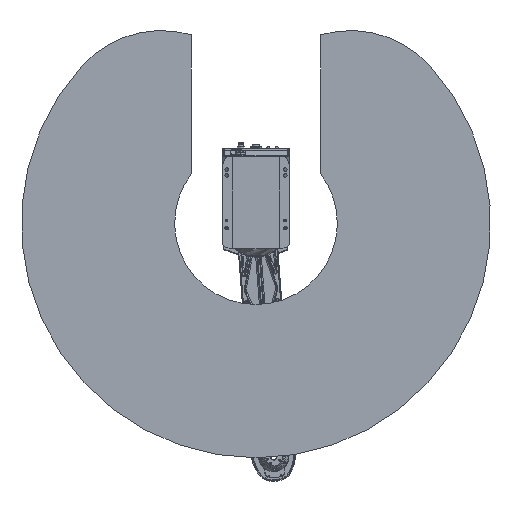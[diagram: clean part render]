
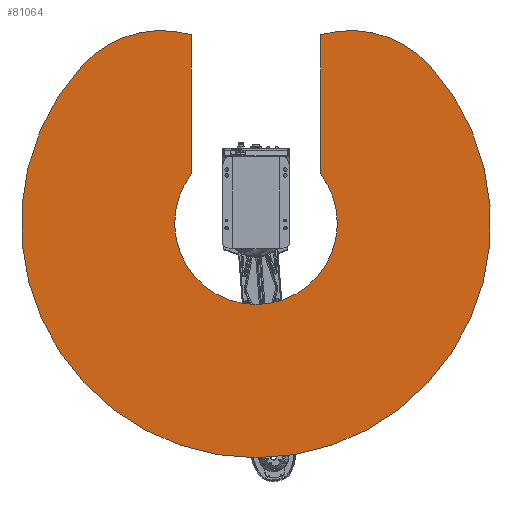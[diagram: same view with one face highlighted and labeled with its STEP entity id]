
A CAD part, front view. The second image highlights one B-rep face of the part: STEP entity #81064.
In plain terms, the highlighted planar face has unit normal (0, -1, 0).
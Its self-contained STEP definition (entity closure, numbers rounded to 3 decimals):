
#2747 = DIRECTION ( 'NONE',  ( 0., 0., -1. ) ) ;
#4393 = VERTEX_POINT ( 'NONE', #165132 ) ;
#9989 = ORIENTED_EDGE ( 'NONE', *, *, #120149, .F. ) ;
#12618 = CIRCLE ( 'NONE', #333390, 600. ) ;
#13391 = DIRECTION ( 'NONE',  ( 0., 0., -1. ) ) ;
#16345 = VERTEX_POINT ( 'NONE', #191407 ) ;
#18442 = CARTESIAN_POINT ( 'NONE',  ( -165., 0., 126.645 ) ) ;
#23619 = EDGE_CURVE ( 'NONE', #4393, #152826, #226561, .T. ) ;
#30586 = AXIS2_PLACEMENT_3D ( 'NONE', #143456, #346670, #172681 ) ;
#35847 = DIRECTION ( 'NONE',  ( 0., 1., 0. ) ) ;
#43668 = DIRECTION ( 'NONE',  ( 0., 0., 1. ) ) ;
#46127 = EDGE_CURVE ( 'NONE', #140333, #336031, #341494, .T. ) ;
#49464 = CIRCLE ( 'NONE', #327204, 275. ) ;
#62021 = AXIS2_PLACEMENT_3D ( 'NONE', #350613, #176620, #2747 ) ;
#73360 = CIRCLE ( 'NONE', #62021, 208. ) ;
#73653 = CIRCLE ( 'NONE', #325041, 208. ) ;
#79103 = CARTESIAN_POINT ( 'NONE',  ( 0., 0., 0. ) ) ;
#81064 = ADVANCED_FACE ( 'NONE', ( #164933 ), #274875, .F. ) ;
#84180 = VECTOR ( 'NONE', #185702, 1000. ) ;
#108369 = DIRECTION ( 'NONE',  ( 0., 0., -1. ) ) ;
#120149 = EDGE_CURVE ( 'NONE', #203296, #140333, #49464, .T. ) ;
#134414 = VECTOR ( 'NONE', #181798, 1000. ) ;
#140333 = VERTEX_POINT ( 'NONE', #238589 ) ;
#143456 = CARTESIAN_POINT ( 'NONE',  ( 0., 0., 0. ) ) ;
#150323 = VERTEX_POINT ( 'NONE', #18442 ) ;
#152151 = EDGE_CURVE ( 'NONE', #336031, #4393, #12618, .T. ) ;
#152826 = VERTEX_POINT ( 'NONE', #194237 ) ;
#159205 = CARTESIAN_POINT ( 'NONE',  ( 0., 0., 0. ) ) ;
#161415 = LINE ( 'NONE', #301272, #84180 ) ;
#164933 = FACE_OUTER_BOUND ( 'NONE', #249279, .T. ) ;
#165132 = CARTESIAN_POINT ( 'NONE',  ( -445.887, 0., 401.478 ) ) ;
#171926 = DIRECTION ( 'NONE',  ( 0., 1., 0. ) ) ;
#172681 = DIRECTION ( 'NONE',  ( 0., 0., -1. ) ) ;
#176620 = DIRECTION ( 'NONE',  ( 0., 1., 0. ) ) ;
#181798 = DIRECTION ( 'NONE',  ( 0., 0., -1. ) ) ;
#185702 = DIRECTION ( 'NONE',  ( 0., 0., -1. ) ) ;
#187382 = DIRECTION ( 'NONE',  ( 0., 1., 0. ) ) ;
#189778 = ORIENTED_EDGE ( 'NONE', *, *, #46127, .F. ) ;
#191407 = CARTESIAN_POINT ( 'NONE',  ( 0., 0., -208. ) ) ;
#194237 = CARTESIAN_POINT ( 'NONE',  ( -165., 0., 481.606 ) ) ;
#199955 = EDGE_CURVE ( 'NONE', #152826, #150323, #202545, .T. ) ;
#202545 = LINE ( 'NONE', #268274, #134414 ) ;
#203296 = VERTEX_POINT ( 'NONE', #312594 ) ;
#209844 = CARTESIAN_POINT ( 'NONE',  ( 241.522, 0., 217.467 ) ) ;
#215435 = AXIS2_PLACEMENT_3D ( 'NONE', #345934, #171926, #375114 ) ;
#217623 = DIRECTION ( 'NONE',  ( 0., 1., 0. ) ) ;
#223280 = CARTESIAN_POINT ( 'NONE',  ( 165., 0., 126.645 ) ) ;
#223743 = ORIENTED_EDGE ( 'NONE', *, *, #224901, .T. ) ;
#224901 = EDGE_CURVE ( 'NONE', #238048, #16345, #73360, .T. ) ;
#226561 = CIRCLE ( 'NONE', #215435, 275. ) ;
#229008 = CARTESIAN_POINT ( 'NONE',  ( 0., 0., -600. ) ) ;
#238048 = VERTEX_POINT ( 'NONE', #223280 ) ;
#238589 = CARTESIAN_POINT ( 'NONE',  ( 445.887, 0., 401.478 ) ) ;
#239068 = DIRECTION ( 'NONE',  ( 0., 0., -1. ) ) ;
#248390 = AXIS2_PLACEMENT_3D ( 'NONE', #159205, #217623, #43668 ) ;
#249279 = EDGE_LOOP ( 'NONE', ( #9989, #329361, #223743, #295526, #297720, #278835, #348845, #189778 ) ) ;
#268274 = CARTESIAN_POINT ( 'NONE',  ( -165., 0., 0. ) ) ;
#274875 = PLANE ( 'NONE',  #248390 ) ;
#278835 = ORIENTED_EDGE ( 'NONE', *, *, #23619, .F. ) ;
#282392 = DIRECTION ( 'NONE',  ( 0., 1., 0. ) ) ;
#295526 = ORIENTED_EDGE ( 'NONE', *, *, #349023, .T. ) ;
#297720 = ORIENTED_EDGE ( 'NONE', *, *, #199955, .F. ) ;
#301272 = CARTESIAN_POINT ( 'NONE',  ( 165., 0., 0. ) ) ;
#312594 = CARTESIAN_POINT ( 'NONE',  ( 165., 0., 481.606 ) ) ;
#322474 = EDGE_CURVE ( 'NONE', #203296, #238048, #161415, .T. ) ;
#325041 = AXIS2_PLACEMENT_3D ( 'NONE', #361295, #187382, #13391 ) ;
#327204 = AXIS2_PLACEMENT_3D ( 'NONE', #209844, #35847, #239068 ) ;
#329361 = ORIENTED_EDGE ( 'NONE', *, *, #322474, .T. ) ;
#333390 = AXIS2_PLACEMENT_3D ( 'NONE', #79103, #282392, #108369 ) ;
#336031 = VERTEX_POINT ( 'NONE', #229008 ) ;
#341494 = CIRCLE ( 'NONE', #30586, 600. ) ;
#345934 = CARTESIAN_POINT ( 'NONE',  ( -241.522, 0., 217.467 ) ) ;
#346670 = DIRECTION ( 'NONE',  ( 0., 1., 0. ) ) ;
#348845 = ORIENTED_EDGE ( 'NONE', *, *, #152151, .F. ) ;
#349023 = EDGE_CURVE ( 'NONE', #16345, #150323, #73653, .T. ) ;
#350613 = CARTESIAN_POINT ( 'NONE',  ( 0., 0., 0. ) ) ;
#361295 = CARTESIAN_POINT ( 'NONE',  ( 0., 0., 0. ) ) ;
#375114 = DIRECTION ( 'NONE',  ( 0., 0., -1. ) ) ;
